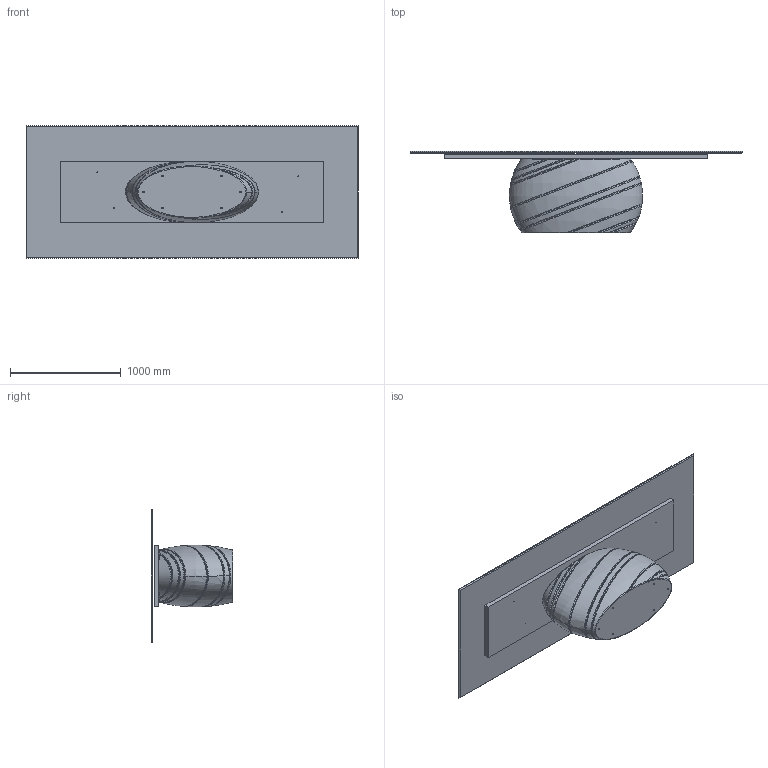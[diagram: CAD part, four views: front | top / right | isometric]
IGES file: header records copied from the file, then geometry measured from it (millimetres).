
Start section: SolidWorks IGES file using analytic representation for surfaces
Global section: file name: Y:\eforma\TECNICO\SOLIDWORKS\E-FORMA\1-TAVOLI\GIOVE\08 modelli 3D web\GI24C.IGS; native system: SolidWorks 2022; preprocessor: SolidWorks 2022; author: eforma.tech; date: 250422.161537; units: millimetre
Bounding box: 3000 x 738 x 1200 mm (x, y, z)
Volume: 427141743.4 mm3; surface area: 12959442.8 mm2
Topology: 3 solids, 3 shells, 152 faces, 365 edges, 234 vertices
Faces by surface type: revolution 60, bspline 53, plane 39
